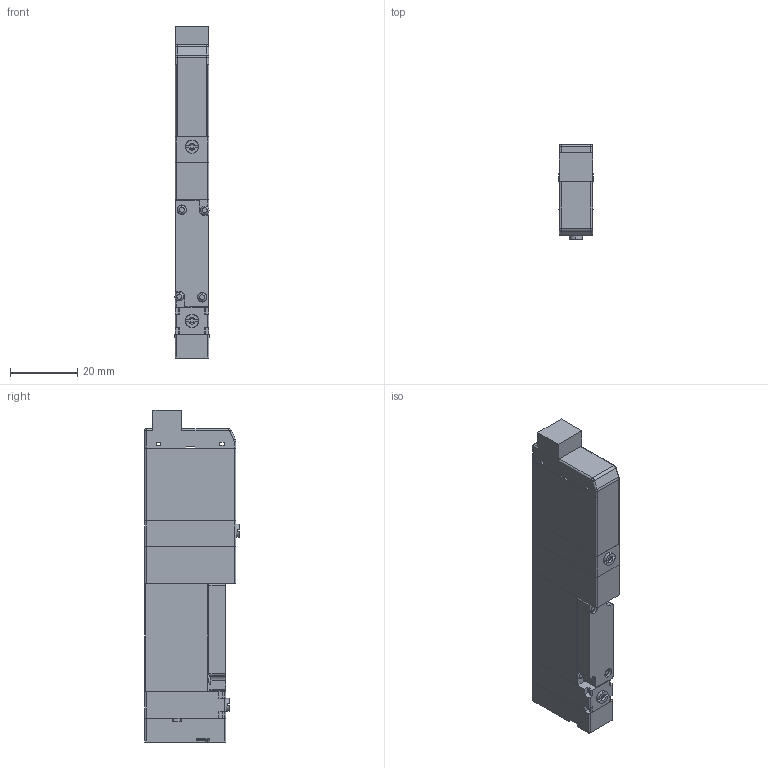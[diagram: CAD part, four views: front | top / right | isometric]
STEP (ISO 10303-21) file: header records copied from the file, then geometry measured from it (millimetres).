
FILE_DESCRIPTION( (''), '2;1');
FILE_NAME ('CVICAD02.13484.F10T2-A1-PN_5904.stp','2020-09-01T14:10:49',(''),(''),'spGate 12.6.6','','');
FILE_SCHEMA (('AUTOMOTIVE_DESIGN'));
Length unit declared in the file: millimetre
Products named in the file (8): Assembly; F10_Adptor; F_3PortBody; F10_Cap; F10T_Body; F_Connector-PN; F10_SwitchBlock; F10_A1
Assembly tree (7 placements, depth 2):
  Assembly
    F10_Adptor
    F_3PortBody
    F10_Cap
    F10T_Body
    F_Connector-PN
    F10_SwitchBlock
    F10_A1
Bounding box: 10.2 x 28 x 98.5 mm (x, y, z)
Volume: 23652.7 mm3; surface area: 11009.8 mm2
Topology: 7 solids, 7 shells, 247 faces, 628 edges, 410 vertices
Faces by surface type: plane 134, cylinder 87, bspline 24, sphere 2
Entity records: 13054 total; most frequent: CARTESIAN_POINT 1794, DIRECTION 1279, ORIENTED_EDGE 1252, COLOUR_RGB 880, PRESENTATION_STYLE_ASSIGNMENT 880, STYLED_ITEM 880, EDGE_CURVE 626, DRAUGHTING_PRE_DEFINED_CURVE_FONT 626
